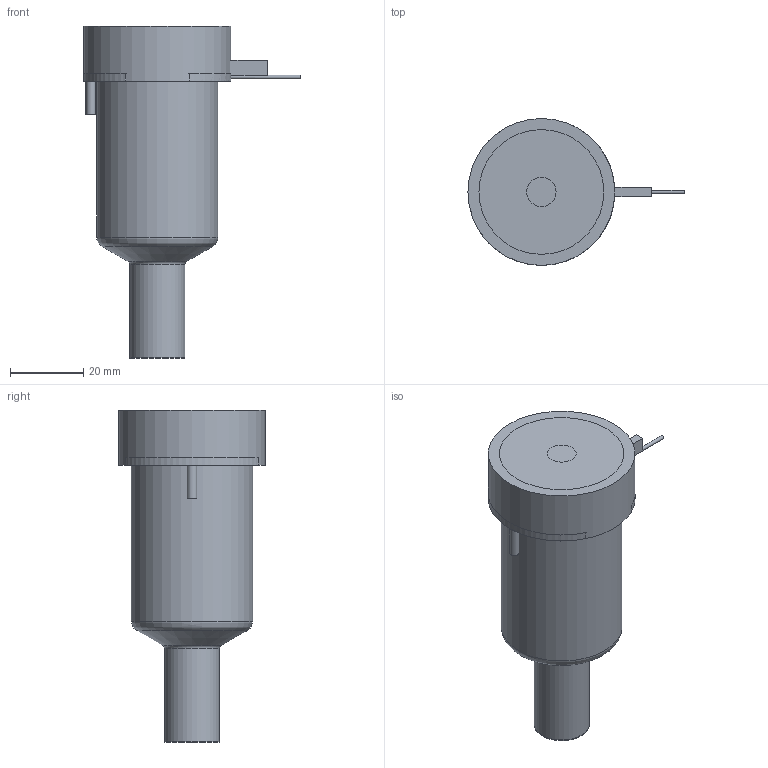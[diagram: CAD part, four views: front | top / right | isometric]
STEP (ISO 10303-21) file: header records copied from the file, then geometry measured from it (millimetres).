
FILE_DESCRIPTION(/* description */ (''),/* implementation_level */ '2;1');
FILE_NAME(/* name */ 'BXYCN19055N3F_200C_a',/* time_stamp */ '2016-02-18T14:23:43+13:00',/* author */ (''),/* organization */ (''),/* preprocessor_version */ 'ST-DEVELOPER v9',/* originating_system */ 'UGS - NX 4.0',/* authorisation */ '');
FILE_SCHEMA (('CONFIG_CONTROL_DESIGN'));
Length unit declared in the file: millimetre
Products named in the file (1): matt5E57pyet
Bounding box: 58.85 x 40 x 90.42 mm (x, y, z)
Volume: 112136 mm3; surface area: 21338.5 mm2
Topology: 2 solids, 2 shells, 66 faces, 148 edges, 96 vertices
Faces by surface type: plane 31, cylinder 21, torus 7, cone 5, bspline 1, sphere 1
Full cylindrical faces by diameter (mm): 1 x2, 2.5 x2, 7 x1, 8 x1, 14.61 x1, 14.995 x2, 18.3 x1, 28.6 x1, 33 x1, 40 x1
Entity records: 1929 total; most frequent: CARTESIAN_POINT 483, DIRECTION 297, ORIENTED_EDGE 232, AXIS2_PLACEMENT_3D 127, EDGE_CURVE 116, EDGE_LOOP 102, VERTEX_POINT 88, ADVANCED_FACE 66
